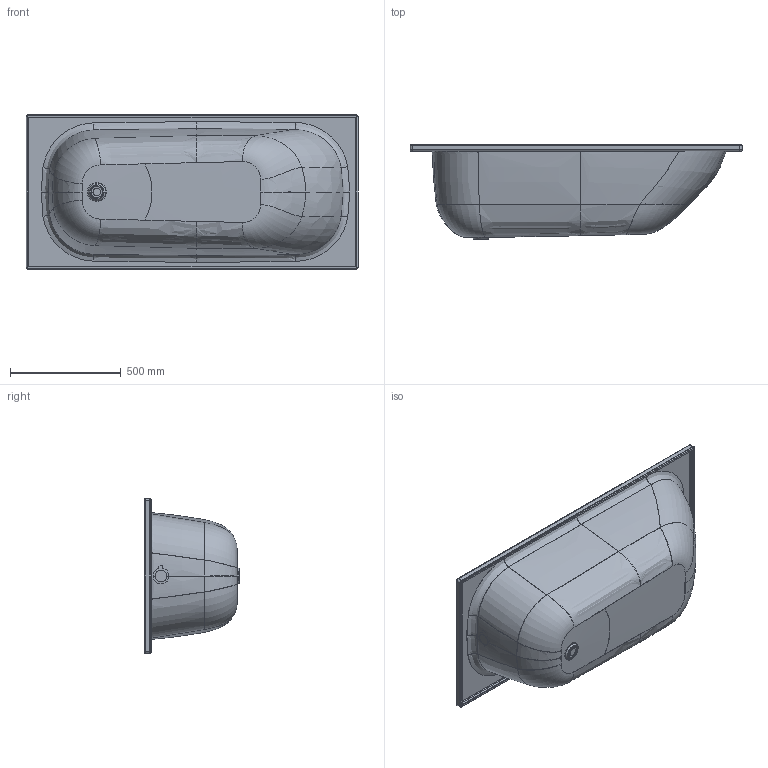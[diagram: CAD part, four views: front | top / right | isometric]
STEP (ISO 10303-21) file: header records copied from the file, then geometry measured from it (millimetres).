
FILE_DESCRIPTION((' '),'2;1');
FILE_NAME( '177da2bbe49145c3.stp', '2021-02-25T18:10:35', (' '), ('--- Datakit www.datakit.com---'), ' Datakit CrossCadWare V2021.1 Jan 6 2021', 'DATAKIT 2021 (c)', ' ');
FILE_SCHEMA(('CONFIG_CONTROL_DESIGN'));
Length unit declared in the file: millimetre
Products named in the file (1): 1750167d94923ac3
Bounding box: 1500 x 430 x 700 mm (x, y, z)
Volume: 5272372.7 mm3; surface area: 4175936.9 mm2
Topology: 3 solids, 3 shells, 173 faces, 403 edges, 237 vertices
Faces by surface type: bspline 52, cylinder 34, torus 32, plane 27, offset 24, cone 4
Full cylindrical faces by diameter (mm): 35 x1, 52 x2
Entity records: 60385 total; most frequent: CARTESIAN_POINT 56984, ORIENTED_EDGE 766, DIRECTION 542, EDGE_CURVE 383, VERTEX_POINT 233, AXIS2_PLACEMENT_3D 231, EDGE_LOOP 193, ADVANCED_FACE 173
